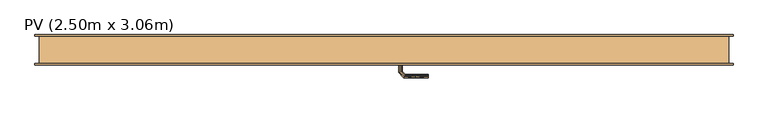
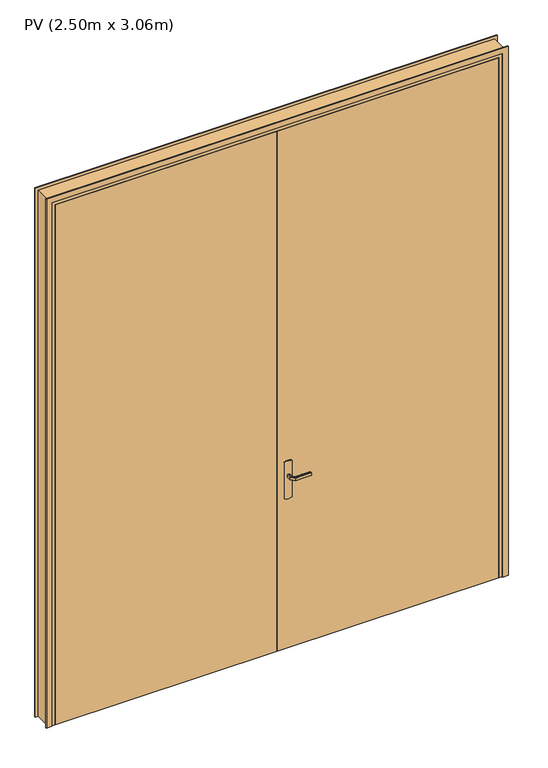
"""IFC4 building model written with IfcOpenShell, lengths in millimetres: door geometry, PV (2.50m x 3.06m)."""

from ifc_helpers import new_model, si_unit, frame, origin, origin_with_axes, place, context, project, spatial, polyline, outline, extrude, faceted_brep, source, transform, mapped, element, save


def pv_2_50m_x_3_06m_ec64a9f2(model_context):
    return source(origin(), model_context, "Body", "SolidModel", [
        extrude(outline(polyline([(866.0039831, 1320.3527618), (870.0, 1330.0), (1080.0, 1330.0), (1083.9960169, 1320.3527618), (1085.3589838, 1310.0), (1083.9960169, 1299.6472382), (1080.0, 1290.0), (870.0, 1290.0), (866.0039831, 1299.6472382), (864.6410162, 1310.0), (866.0039831, 1320.3527618)])), frame((0.0, -5.0, 0.0), z_axis=(0.0, 1.0, 0.0), x_axis=(0.0, 0.0, 1.0)), (0.0, 0.0, 1.0), 5.0),
        extrude(outline(polyline([(866.0039831, 1320.3527618), (870.0, 1330.0), (1080.0, 1330.0), (1083.9960169, 1320.3527618), (1085.3589838, 1310.0), (1083.9960169, 1299.6472382), (1080.0, 1290.0), (870.0, 1290.0), (866.0039831, 1299.6472382), (864.6410162, 1310.0), (866.0039831, 1320.3527618)])), frame((0.0, 40.0, 0.0), z_axis=(0.0, 1.0, 0.0), x_axis=(0.0, 0.0, 1.0)), (0.0, 0.0, 1.0), 5.0),
        faceted_brep([(0.0, 0.0, 0.0), (0.0, 100.0, 0.0), (50.0, 100.0, 0.0), (50.0, 40.0, 0.0), (35.0, 40.0, 0.0), (35.0, 0.0, 0.0), (0.0, 0.0, 3045.0), (0.0, 100.0, 3045.0), (2500.0, 100.0, 3045.0), (2500.0, 100.0, 0.0), (2450.0, 100.0, 0.0), (2450.0, 100.0, 2995.0), (50.0, 100.0, 2995.0), (50.0, 40.0, 2995.0), (2450.0, 40.0, 2995.0), (2450.0, 40.0, 0.0), (2465.0, 40.0, 0.0), (2465.0, 40.0, 3010.0), (35.0, 40.0, 3010.0), (35.0, 0.0, 3010.0), (2465.0, 0.0, 3010.0), (2465.0, 0.0, 0.0), (2500.0, 0.0, 0.0), (2500.0, 0.0, 3045.0)], [[[0, 1, 2, 3, 4, 5]], [[1, 0, 6, 7]], [[2, 1, 7, 8, 9, 10, 11, 12]], [[3, 2, 12, 13]], [[4, 3, 13, 14, 15, 16, 17, 18]], [[5, 4, 18, 19]], [[0, 5, 19, 20, 21, 22, 23, 6]], [[8, 23, 22, 9]], [[22, 21, 16, 15, 10, 9]], [[14, 11, 10, 15]], [[20, 17, 16, 21]], [[7, 6, 23, 8]], [[13, 12, 11, 14]], [[19, 18, 17, 20]]]),
        faceted_brep([(1307.9747013, -5.0, 1007.7804408), (1312.0252987, -5.0, 1007.7804408), (1316.0, -5.0, 1007.0), (1316.0, -5.0, 993.0), (1312.0252987, -5.0, 992.2195592), (1307.9747013, -5.0, 992.2195592), (1304.0, -5.0, 993.0), (1304.0, -5.0, 1007.0), (1304.0, -32.6509507, 1007.0), (1307.9747013, -31.0045755, 1007.7804408), (1324.0235852, -47.0534593, 1007.7804408), (1325.7013975, -43.002862, 1007.7804408), (1312.0252987, -29.3267632, 1007.7804408), (1316.0, -27.680388, 1007.0), (1316.0, -27.680388, 993.0), (1312.0252987, -29.3267632, 992.2195592), (1325.7013975, -43.002862, 992.2195592), (1324.0235852, -47.0534593, 992.2195592), (1307.9747013, -31.0045755, 992.2195592), (1304.0, -32.6509507, 993.0), (1322.37721, -51.0281607, 1007.0), (1327.3477727, -39.0281607, 1007.0), (1327.3477727, -39.0281607, 993.0), (1322.37721, -51.0281607, 993.0), (1410.0186406, -51.0281607, 993.0), (1410.0186406, -47.0534593, 992.2195592), (1410.0186406, -43.002862, 992.2195592), (1410.0186406, -39.0281607, 993.0), (1410.0186406, -39.0281607, 1007.0), (1410.0186406, -43.002862, 1007.7804408), (1410.0186406, -47.0534593, 1007.7804408), (1410.0186406, -51.0281607, 1007.0), (1362.3076972, -51.0281607, 1007.0), (1367.8600191, -45.0281607, 1007.8786868), (1368.6832067, -39.0281607, 1007.0), (1368.6832067, -39.0281607, 993.0), (1367.8600189, -45.0281608, 992.1213132), (1362.3077002, -51.0281607, 993.0)], [[[0, 1, 2, 3, 4, 5, 6, 7]], [[8, 9, 0, 7]], [[9, 10, 11, 12, 1, 0]], [[12, 13, 2, 1]], [[3, 2, 13, 14]], [[14, 15, 4, 3]], [[15, 16, 17, 18, 5, 4]], [[18, 19, 6, 5]], [[7, 6, 19, 8]], [[20, 10, 9, 8]], [[11, 21, 13, 12]], [[14, 13, 21, 22]], [[22, 16, 15, 14]], [[17, 23, 19, 18]], [[8, 19, 23, 20]], [[24, 25, 26, 27, 28, 29, 30, 31]], [[32, 30, 33]], [[31, 30, 32]], [[10, 20, 32]], [[33, 34, 11]], [[21, 11, 34]], [[34, 29, 28]], [[30, 29, 33]], [[29, 34, 33]], [[10, 32, 33]], [[10, 33, 11]], [[22, 21, 34, 28, 27, 35]], [[35, 26, 36]], [[37, 36, 25]], [[22, 35, 16]], [[35, 27, 26]], [[24, 37, 25]], [[23, 17, 37]], [[37, 17, 36]], [[17, 16, 36]], [[16, 35, 36]], [[25, 36, 26]], [[20, 23, 37, 24, 31, 32]]]),
        extrude(outline(polyline([(1250.0, 40.0), (2465.0, 40.0), (2465.0, 0.0), (1250.0, 0.0), (1250.0, 40.0)])), origin_with_axes(), (0.0, 0.0, 1.0), 3010.0),
        extrude(outline(polyline([(0.0, -15.0), (0.0, 15.0), (3030.0, 15.0), (3030.0, 2485.0), (0.0, 2485.0), (0.0, 2515.0), (3060.0, 2515.0), (3060.0, -15.0), (0.0, -15.0)])), frame((0.0, -5.0, 0.0), z_axis=(0.0, 1.0, 0.0), x_axis=(0.0, 0.0, 1.0)), (0.0, 0.0, 1.0), 5.0),
        faceted_brep([(1307.9747013, 45.0, 1007.7804408), (1304.0, 45.0, 1007.0), (1304.0, 45.0, 993.0), (1307.9747013, 45.0, 992.2195592), (1312.0252987, 45.0, 992.2195592), (1316.0, 45.0, 993.0), (1316.0, 45.0, 1007.0), (1312.0252987, 45.0, 1007.7804408), (1316.0, 67.4852045, 993.0), (1316.0, 67.4852045, 1007.0), (1312.0252987, 69.1315797, 1007.7804408), (1325.8389062, 82.9451872, 1007.7804408), (1324.1610938, 86.9957845, 1007.7804408), (1307.9747013, 70.8093921, 1007.7804408), (1304.0, 72.4557673, 1007.0), (1304.0, 72.4557673, 993.0), (1307.9747013, 70.8093921, 992.2195592), (1324.1610938, 86.9957845, 992.2195592), (1325.8389062, 82.9451872, 992.2195592), (1312.0252987, 69.1315797, 992.2195592), (1327.4852814, 78.9704859, 993.0), (1327.4852814, 78.9704859, 1007.0), (1322.5147186, 90.9704859, 1007.0), (1322.5147186, 90.9704859, 993.0), (1410.0457837, 78.9704859, 993.0), (1410.0457837, 82.9451872, 992.2195592), (1410.0457837, 86.9957845, 992.2195592), (1410.0457837, 90.9704859, 993.0), (1410.0457837, 90.9704859, 1007.0), (1410.0457837, 86.9957845, 1007.7804408), (1410.0457837, 82.9451872, 1007.7804408), (1410.0457837, 78.9704859, 1007.0), (1368.7655206, 78.9704859, 993.0), (1368.7655325, 78.9704859, 1007.0), (1367.9423449, 84.9704859, 1007.8786868), (1362.4452058, 90.9704859, 1007.0), (1362.4452043, 90.9704859, 993.0), (1367.9423451, 84.9704858, 992.1213132)], [[[0, 1, 2, 3, 4, 5, 6, 7]], [[6, 5, 8, 9]], [[9, 10, 7, 6]], [[10, 11, 12, 13, 0, 7]], [[13, 14, 1, 0]], [[2, 1, 14, 15]], [[15, 16, 3, 2]], [[16, 17, 18, 19, 4, 3]], [[19, 8, 5, 4]], [[9, 8, 20, 21]], [[21, 11, 10, 9]], [[12, 22, 14, 13]], [[15, 14, 22, 23]], [[23, 17, 16, 15]], [[18, 20, 8, 19]], [[24, 25, 26, 27, 28, 29, 30, 31]], [[21, 20, 32, 24, 31, 33]], [[33, 30, 34]], [[35, 34, 29]], [[21, 33, 11]], [[33, 31, 30]], [[28, 35, 29]], [[22, 12, 35]], [[35, 12, 34]], [[12, 11, 34]], [[11, 33, 34]], [[29, 34, 30]], [[22, 35, 28, 27, 36, 23]], [[36, 26, 37]], [[27, 26, 36]], [[17, 23, 36]], [[37, 32, 18]], [[20, 18, 32]], [[32, 25, 24]], [[26, 25, 37]], [[25, 32, 37]], [[17, 36, 37]], [[17, 37, 18]]]),
        extrude(outline(polyline([(1250.0, 40.0), (1250.0, 0.0), (35.0, 0.0), (35.0, 40.0), (1250.0, 40.0)])), origin_with_axes(), (0.0, 0.0, 1.0), 3010.0),
        extrude(outline(polyline([(0.0, -15.0), (0.0, 15.0), (3030.0, 15.0), (3030.0, 2485.0), (0.0, 2485.0), (0.0, 2515.0), (3060.0, 2515.0), (3060.0, -15.0), (0.0, -15.0)])), frame((0.0, 100.0, 0.0), z_axis=(0.0, 1.0, 0.0), x_axis=(0.0, 0.0, 1.0)), (0.0, 0.0, 1.0), 5.0),
    ])


if __name__ == "__main__":
    model = new_model("IFC4")
    model_context = context("Model", 3, world=origin())
    ifc_project = project(units=[si_unit("LENGTHUNIT", "METRE", prefix="MILLI")], contexts=[model_context])
    site = spatial("IfcSite", under=ifc_project)
    building = spatial("IfcBuilding", under=site)
    placement = place(None, origin())
    pv_2_50m_x_3_06m_shape = pv_2_50m_x_3_06m_ec64a9f2(model_context)
    element("IfcDoor", 1, ObjectType="PV (2.50m x 3.06m)", at=placement, inside=building, context=model_context, shape_type="MappedRepresentation", body=[
        mapped(pv_2_50m_x_3_06m_shape, transform((0.0, 0.0, 0.0), x_axis=(1.0, 0.0, 0.0), y_axis=(0.0, 1.0, 0.0), z_axis=(0.0, 0.0, 1.0))),
    ])
    save(model, "model.ifc")
